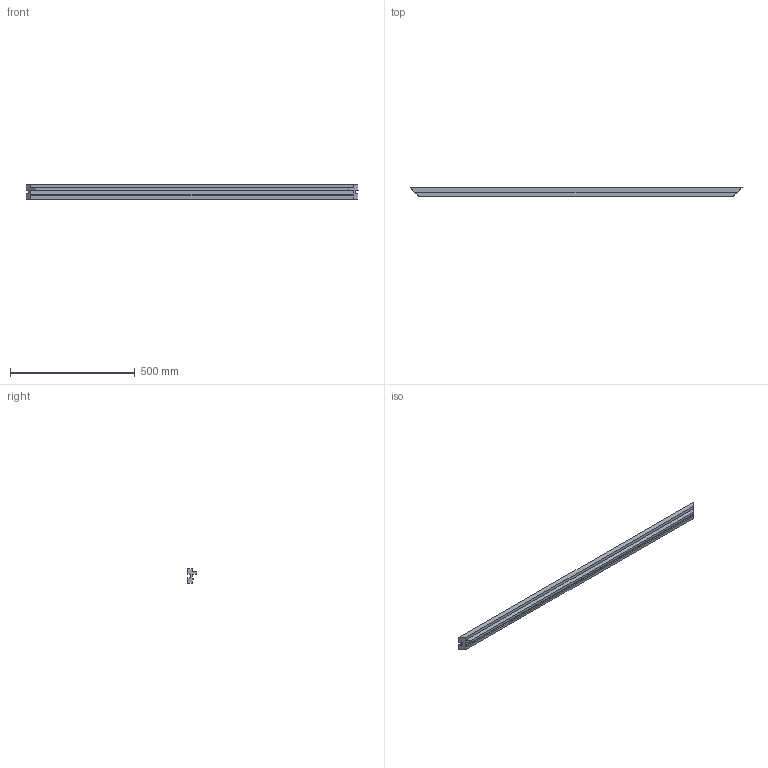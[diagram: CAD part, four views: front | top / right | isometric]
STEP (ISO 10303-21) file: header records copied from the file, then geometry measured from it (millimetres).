
FILE_DESCRIPTION(/* description */ (''),/* implementation_level */ '2;1');
FILE_NAME(/* name */ 'Pos140-PV-SCHERM PROFIEL 60X37-Aluminium-2st',/* time_stamp */ '2024-08-06T11:49:43+02:00',/* author */ (''),/* organization */ (''),/* preprocessor_version */ 'ST-DEVELOPER v16.5',/* originating_system */ 'HiCAD 2024 2901.2 Build 361',/* authorisation */ '');
FILE_SCHEMA (('AUTOMOTIVE_DESIGN { 1 0 10303 214 1 1 1 1 }'));
Length unit declared in the file: millimetre
Products named in the file (1): Pos140-PV-SCHERM PROFIEL 60X37-Aluminium-2st
Bounding box: 1330 x 37 x 60 mm (x, y, z)
Volume: 1630865.6 mm3; surface area: 316880.8 mm2
Topology: 1 solids, 1 shells, 33 faces, 93 edges, 62 vertices
Faces by surface type: plane 29, cylinder 4
Entity records: 2003 total; most frequent: CARTESIAN_POINT 188, PRESENTATION_STYLE_ASSIGNMENT 187, COLOUR_RGB 187, DRAUGHTING_PRE_DEFINED_CURVE_FONT 186, CURVE_STYLE 186, OVER_RIDING_STYLED_ITEM 186, ORIENTED_EDGE 186, DIRECTION 167
